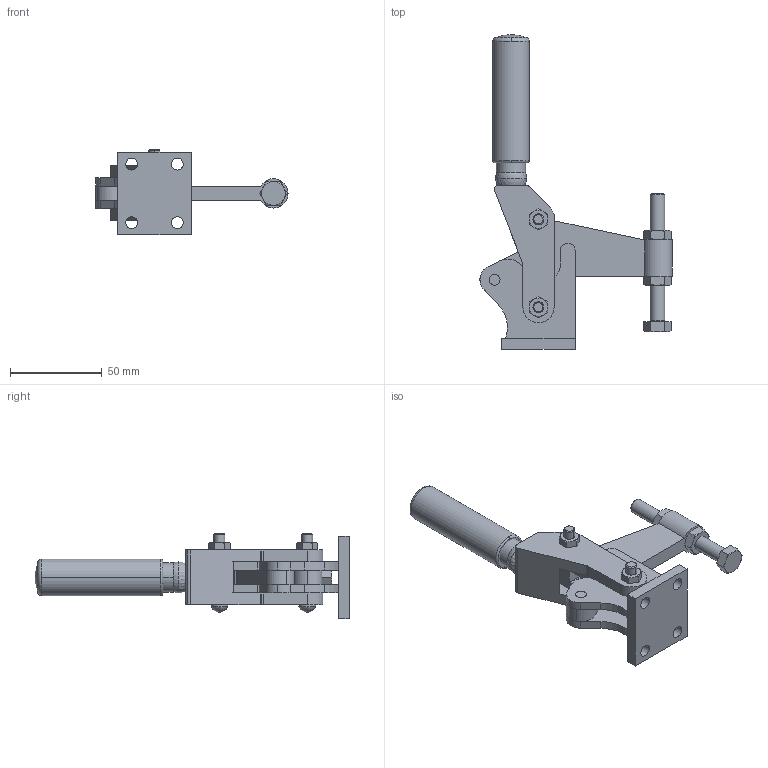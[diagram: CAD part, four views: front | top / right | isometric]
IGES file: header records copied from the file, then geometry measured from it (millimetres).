
Start section:  Level              Description ========  ================================        1  SANDFIELD
Global section: file name: D:/WORK/SANDFIELD/sandfield_3d/Vertical_Action/HEAVY_DUTY/M18/M18SB.IGS; native system: AutoCAD-13_c4a_Mh (HwLock) (Microsoft Windows NT Version 4.0 (x86)); preprocessor: AutoCAD IGES Translator R13.1c2 (Jan 23 1997) from Autodesk, Inc.; author: ProCAD; organization: Sandfield Eng Co.; date: 990520.143132; units: millimetre
Bounding box: 105 x 172 x 46.5 mm (x, y, z)
Volume: 121191.5 mm3; surface area: 50180 mm2
Topology: 16 solids, 16 shells, 295 faces, 723 edges, 460 vertices
Faces by surface type: cylinder 102, plane 101, bspline 66, cone 14, sphere 8, torus 4
